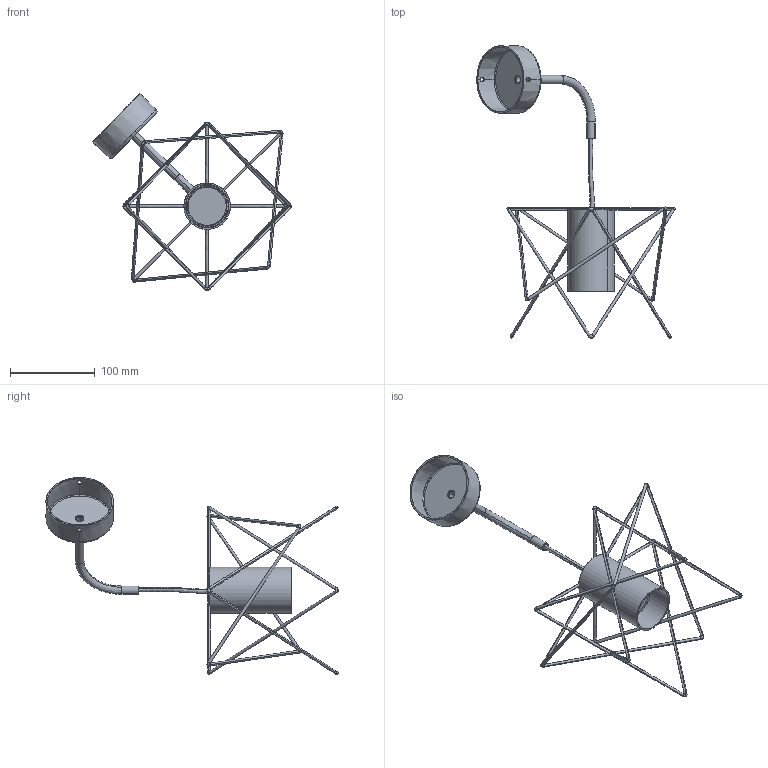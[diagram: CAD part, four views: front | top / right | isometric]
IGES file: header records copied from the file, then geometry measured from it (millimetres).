
Start section: SolidWorks IGES file using analytic representation for surfaces
Global section: file name: Z:\Modele 3D_WWW\_KOLEKCJE_WWW\GSTAR\GSTAR-8285\GSTAR-8285.IGS; native system: SolidWorks 2020; preprocessor: SolidWorks 2020; author: gabriela.tworek; date: 210315.144319; units: millimetre
Bounding box: 234.82 x 345.79 x 232.96 mm (x, y, z)
Surface area: 123311.1 mm2 (no closed solid volume)
Topology: 0 solids, 0 shells, 305 faces, 5418 edges, 5417 vertices
Faces by surface type: bspline 157, revolution 148
